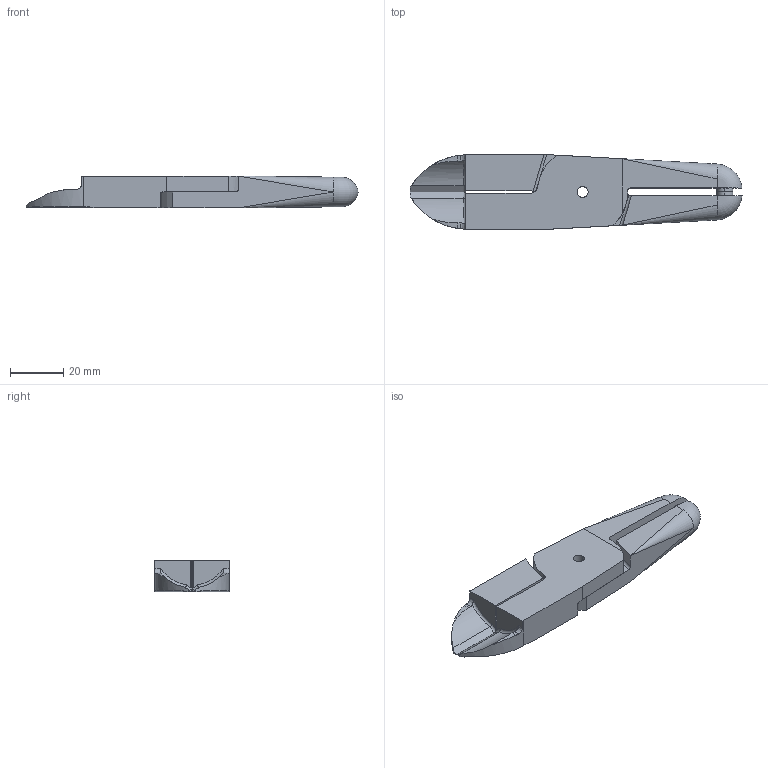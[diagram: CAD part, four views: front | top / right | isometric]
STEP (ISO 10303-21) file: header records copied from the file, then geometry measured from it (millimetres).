
FILE_DESCRIPTION (( 'STEP AP214' ), '1' );
FILE_NAME ('N20AJL.STEP', '2019-11-29T05:16:55', ( '微软用户' ), ( '微软中国' ), 'SwSTEP 2.0', 'SolidWorks 2016', '' );
FILE_SCHEMA (( 'AUTOMOTIVE_DESIGN' ));
Length unit declared in the file: millimetre
Products named in the file (1): N20AJL
Bounding box: 125 x 28 x 12 mm (x, y, z)
Surface area: 12386.2 mm2 (no closed solid volume)
Topology: 0 solids, 5 shells, 91 faces, 263 edges, 170 vertices
Faces by surface type: plane 43, cylinder 32, bspline 16
Entity records: 7677 total; most frequent: CARTESIAN_POINT 5515, ORIENTED_EDGE 486, DIRECTION 364, EDGE_CURVE 256, VERTEX_POINT 170, VECTOR 132, LINE 132, AXIS2_PLACEMENT_3D 116
